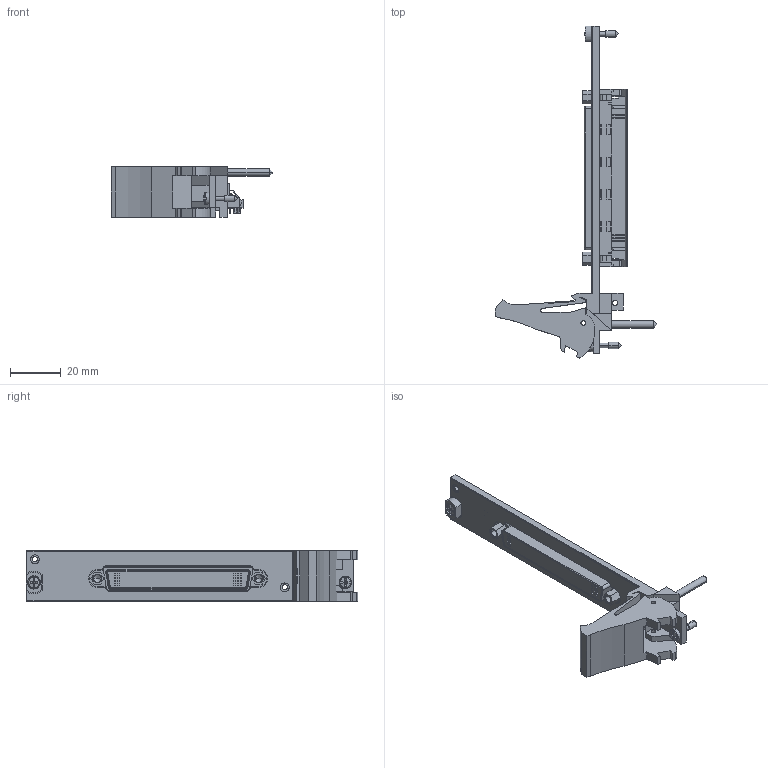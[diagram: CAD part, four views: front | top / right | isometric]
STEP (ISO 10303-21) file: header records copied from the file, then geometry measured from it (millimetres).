
FILE_DESCRIPTION((''),'2;1');
FILE_NAME('CU_PXI-2530B','2011-01-21T',('jjorden'),(''),'PRO/ENGINEER BY PARAMETRIC TECHNOLOGY CORPORATION, 2010230','PRO/ENGINEER BY PARAMETRIC TECHNOLOGY CORPORATION, 2010230','');
FILE_SCHEMA(('CONFIG_CONTROL_DESIGN'));
Length unit declared in the file: inch
Products named in the file (1): CU_PXI-2530B
Bounding box: 63.53 x 130.5 x 20.02 mm (x, y, z)
Volume: 19682.9 mm3; surface area: 15526.7 mm2
Topology: 1 solids, 1 shells, 915 faces, 2464 edges, 1611 vertices
Faces by surface type: plane 752, cylinder 123, cone 24, torus 12, sphere 4
Entity records: 28524 total; most frequent: CARTESIAN_POINT 5185, ORIENTED_EDGE 4912, DIRECTION 4585, EDGE_CURVE 2456, VECTOR 2101, LINE 2101, VERTEX_POINT 1611, AXIS2_PLACEMENT_3D 1242
